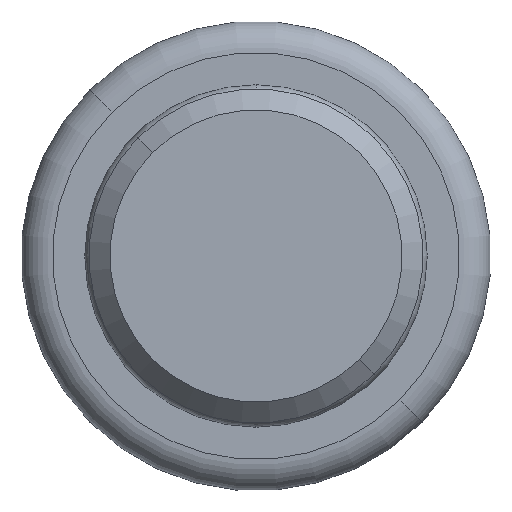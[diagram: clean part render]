
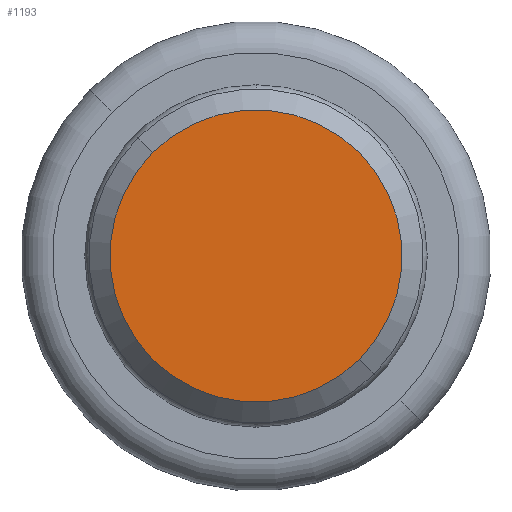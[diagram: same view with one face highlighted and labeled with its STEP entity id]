
A CAD part, front view. The second image highlights one B-rep face of the part: STEP entity #1193.
In plain terms, the highlighted planar face has unit normal (0, -1, 0).
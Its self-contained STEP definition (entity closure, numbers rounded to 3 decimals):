
#145 = FACE_OUTER_BOUND ( 'NONE', #1394, .T. ) ;
#218 = DIRECTION ( 'NONE',  ( -0.707, 0., 0.707 ) ) ;
#445 = CARTESIAN_POINT ( 'NONE',  ( -4.95, 0., 4.95 ) ) ;
#586 = VERTEX_POINT ( 'NONE', #1548 ) ;
#673 = CARTESIAN_POINT ( 'NONE',  ( 7., 0., 0. ) ) ;
#681 = PLANE ( 'NONE',  #1454 ) ;
#697 = CARTESIAN_POINT ( 'NONE',  ( 0., 0., 0. ) ) ;
#706 = DIRECTION ( 'NONE',  ( 0., 1., 0. ) ) ;
#729 = DIRECTION ( 'NONE',  ( 0., -1., 0. ) ) ;
#794 = EDGE_CURVE ( 'NONE', #1553, #586, #976, .T. ) ;
#898 = ORIENTED_EDGE ( 'NONE', *, *, #1496, .T. ) ;
#976 = CIRCLE ( 'NONE', #1672, 7. ) ;
#1089 = ORIENTED_EDGE ( 'NONE', *, *, #794, .T. ) ;
#1117 = DIRECTION ( 'NONE',  ( -0.707, 0., 0.707 ) ) ;
#1178 = CIRCLE ( 'NONE', #1210, 7. ) ;
#1193 = ADVANCED_FACE ( 'NONE', ( #145 ), #681, .F. ) ;
#1210 = AXIS2_PLACEMENT_3D ( 'NONE', #697, #729, #1117 ) ;
#1340 = DIRECTION ( 'NONE',  ( 0.707, 0., -0.707 ) ) ;
#1394 = EDGE_LOOP ( 'NONE', ( #898, #1089 ) ) ;
#1454 = AXIS2_PLACEMENT_3D ( 'NONE', #673, #706, #1340 ) ;
#1496 = EDGE_CURVE ( 'NONE', #586, #1553, #1178, .T. ) ;
#1512 = DIRECTION ( 'NONE',  ( 0., -1., 0. ) ) ;
#1548 = CARTESIAN_POINT ( 'NONE',  ( 4.95, 0., -4.95 ) ) ;
#1553 = VERTEX_POINT ( 'NONE', #445 ) ;
#1672 = AXIS2_PLACEMENT_3D ( 'NONE', #1803, #1512, #218 ) ;
#1803 = CARTESIAN_POINT ( 'NONE',  ( 0., 0., 0. ) ) ;
